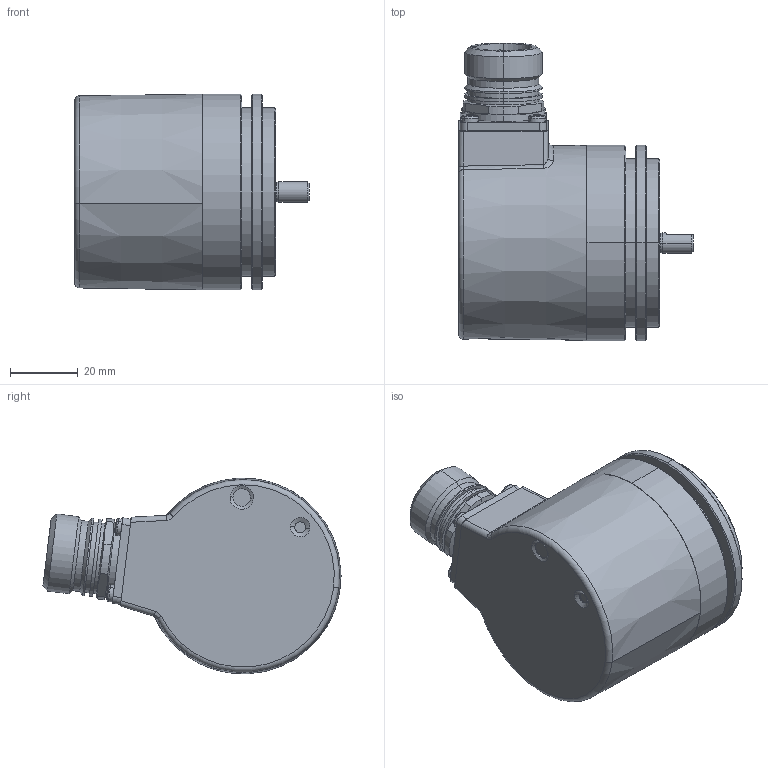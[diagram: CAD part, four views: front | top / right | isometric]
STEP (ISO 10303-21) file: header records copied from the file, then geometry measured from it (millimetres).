
FILE_DESCRIPTION (( 'STEP AP214' ), '1' );
FILE_NAME ('5863.2124.XXXX.STEP', '2008-06-06T06:07:27', ( 'admin' ), ( 'Fritz Kübler GmbH' ), 'SwSTEP 2.0', 'SolidWorks 2007', '' );
FILE_SCHEMA (( 'AUTOMOTIVE_DESIGN' ));
Length unit declared in the file: millimetre
Products named in the file (1): 5863.2124.XXXX
Bounding box: 69.5 x 88.28 x 58 mm (x, y, z)
Surface area: 24876.1 mm2 (no closed solid volume)
Topology: 0 solids, 32 shells, 325 faces, 850 edges, 538 vertices
Faces by surface type: cylinder 135, plane 87, cone 41, sphere 32, torus 24, bspline 6
Entity records: 13782 total; most frequent: CARTESIAN_POINT 2046, DIRECTION 1938, ORIENTED_EDGE 1488, EDGE_CURVE 826, AXIS2_PLACEMENT_3D 820, VERTEX_POINT 538, CIRCLE 500, EDGE_LOOP 371
